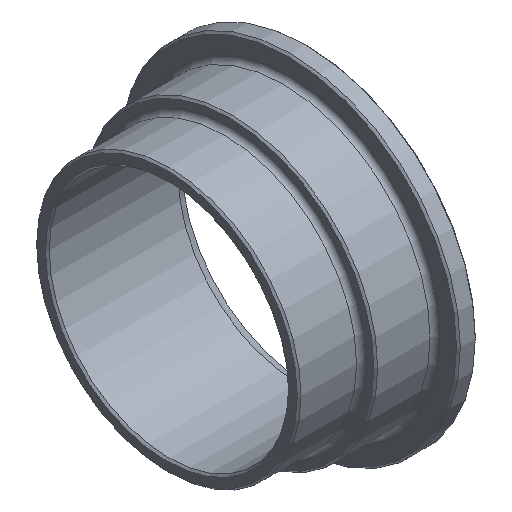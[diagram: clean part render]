
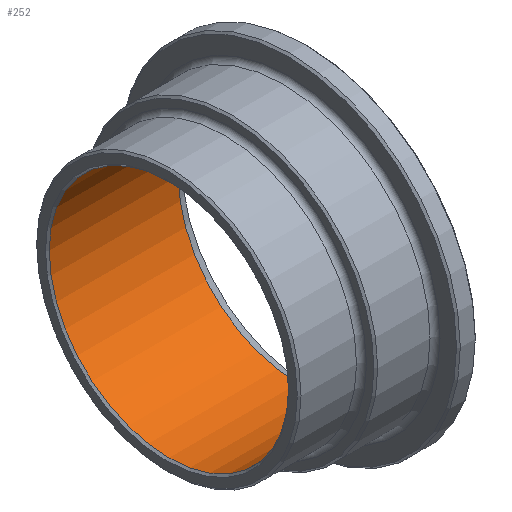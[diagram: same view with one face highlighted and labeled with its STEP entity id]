
A CAD part, isometric view. The second image highlights one B-rep face of the part: STEP entity #252.
In plain terms, the highlighted cylindrical face has radius 19.2 mm (diameter 38.4 mm), a full revolution.
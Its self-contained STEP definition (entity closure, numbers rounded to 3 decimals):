
#32=LINE('',#464,#42);
#42=VECTOR('',#382,19.2);
#51=CYLINDRICAL_SURFACE('',#306,19.2);
#61=FACE_OUTER_BOUND('',#80,.T.);
#80=EDGE_LOOP('',(#205,#206,#207,#208,#209));
#104=CIRCLE('',#302,19.2);
#105=CIRCLE('',#303,19.2);
#107=CIRCLE('',#307,19.2);
#127=VERTEX_POINT('',#453);
#128=VERTEX_POINT('',#455);
#130=VERTEX_POINT('',#462);
#155=EDGE_CURVE('',#127,#128,#104,.T.);
#156=EDGE_CURVE('',#128,#127,#105,.T.);
#158=EDGE_CURVE('',#130,#130,#107,.T.);
#159=EDGE_CURVE('',#130,#128,#32,.T.);
#205=ORIENTED_EDGE('',*,*,#158,.T.);
#206=ORIENTED_EDGE('',*,*,#159,.T.);
#207=ORIENTED_EDGE('',*,*,#155,.F.);
#208=ORIENTED_EDGE('',*,*,#156,.F.);
#209=ORIENTED_EDGE('',*,*,#159,.F.);
#252=ADVANCED_FACE('',(#61),#51,.F.);
#302=AXIS2_PLACEMENT_3D('',#456,#370,#371);
#303=AXIS2_PLACEMENT_3D('',#457,#372,#373);
#306=AXIS2_PLACEMENT_3D('',#461,#378,#379);
#307=AXIS2_PLACEMENT_3D('',#463,#380,#381);
#370=DIRECTION('center_axis',(1.,0.,0.));
#371=DIRECTION('ref_axis',(0.,-1.,0.));
#372=DIRECTION('center_axis',(1.,0.,0.));
#373=DIRECTION('ref_axis',(0.,-1.,0.));
#378=DIRECTION('center_axis',(1.,0.,0.));
#379=DIRECTION('ref_axis',(0.,1.,0.));
#380=DIRECTION('center_axis',(1.,0.,0.));
#381=DIRECTION('ref_axis',(0.,0.,-1.));
#382=DIRECTION('',(-1.,0.,0.));
#453=CARTESIAN_POINT('',(-22.2,19.2,0.));
#455=CARTESIAN_POINT('',(-22.2,-19.2,0.));
#456=CARTESIAN_POINT('Origin',(-22.2,0.,0.));
#457=CARTESIAN_POINT('Origin',(-22.2,0.,0.));
#461=CARTESIAN_POINT('Origin',(-11.986,0.,0.));
#462=CARTESIAN_POINT('',(-1.472,-19.2,0.));
#463=CARTESIAN_POINT('Origin',(-1.472,0.,0.));
#464=CARTESIAN_POINT('',(-11.986,-19.2,0.));
